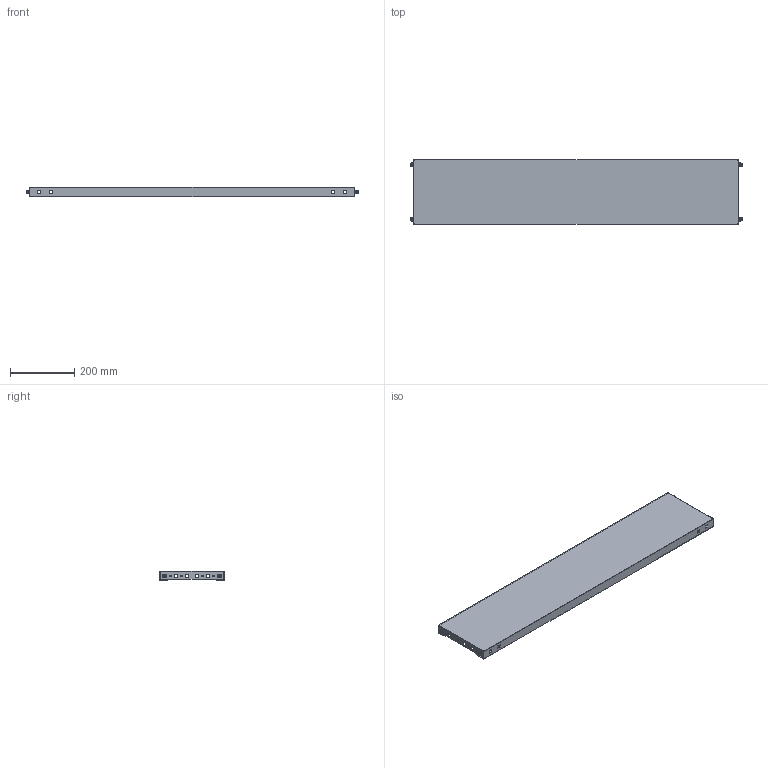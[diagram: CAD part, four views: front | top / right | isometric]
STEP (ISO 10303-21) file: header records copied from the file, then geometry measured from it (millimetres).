
FILE_DESCRIPTION(('Open CASCADE Model'),'2;1');
FILE_NAME('Open CASCADE Shape Model','2025-02-07T17:53:40',('Author'),( 'Open CASCADE'),'Open CASCADE STEP processor 7.8','Open CASCADE 7.8' ,'Unknown');
FILE_SCHEMA(('AUTOMOTIVE_DESIGN { 1 0 10303 214 1 1 1 1 }'));
Length unit declared in the file: millimetre
Products named in the file (5): Compound1; Solid1; Solid2; Solid3; Solid4
Assembly tree (13 placements, depth 2):
  Compound1
    Solid1
    Solid2  x4
    Solid3  x4
    Solid4  x4
Bounding box: 1036.2 x 200 x 30 mm (x, y, z)
Volume: 469025.3 mm3; surface area: 632906.8 mm2
Topology: 13 solids, 13 shells, 796 faces, 2238 edges, 1456 vertices
Faces by surface type: plane 402, cylinder 330, cone 32, bspline 16, torus 16
Full cylindrical faces by diameter (mm): 5.5 x8, 6.5 x82
Entity records: 26144 total; most frequent: CARTESIAN_POINT 16110, ORIENTED_EDGE 2076, DIRECTION 1936, EDGE_CURVE 1038, VERTEX_POINT 685, AXIS2_PLACEMENT_3D 659, LINE 618, VECTOR 618
